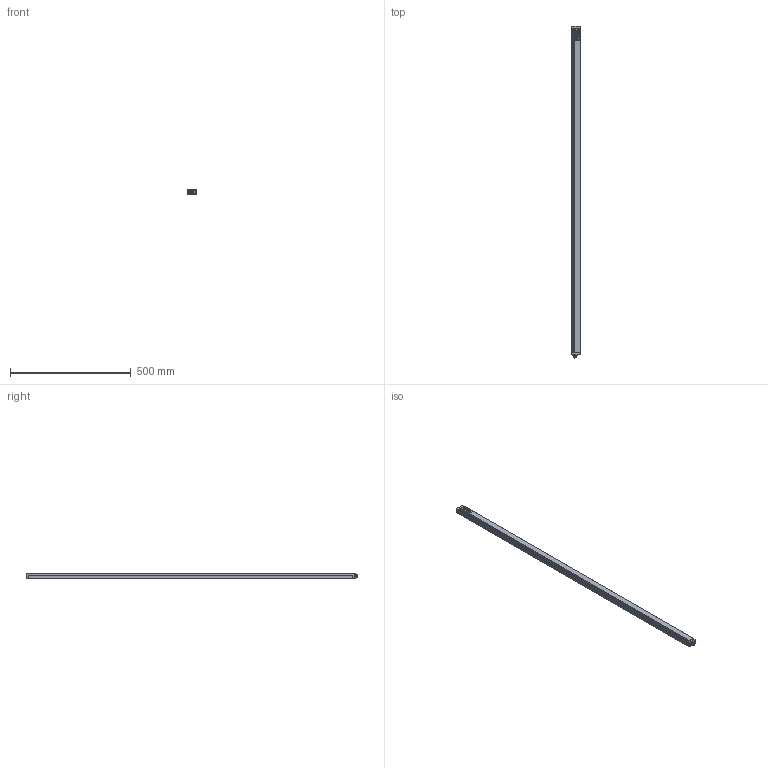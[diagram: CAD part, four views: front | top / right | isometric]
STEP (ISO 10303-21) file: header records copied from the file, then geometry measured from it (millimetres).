
FILE_DESCRIPTION(/* description */ (''),/* implementation_level */ '2;1');
FILE_NAME(/* name */ 'C:\Users\andre\SynologyDrive\Optoscan\Libreria Componenti\00 - Barriere\Polaris sorgente\Polaris_1340_TX.stp',/* time_stamp */ '2021-06-04T11:00:54+02:00',/* author */ ('andre'),/* organization */ (''),/* preprocessor_version */ 'ST-DEVELOPER v18',/* originating_system */ 'Autodesk Inventor 2020',/* authorisation */ '');
FILE_SCHEMA (('AUTOMOTIVE_DESIGN { 1 0 10303 214 3 1 1 }'));
Length unit declared in the file: millimetre
Products named in the file (1): Polaris_1340_TX
Bounding box: 40.5 x 1376.8 x 20.75 mm (x, y, z)
Volume: 271867.8 mm3; surface area: 358380.5 mm2
Topology: 1 solids, 1 shells, 738 faces, 2048 edges, 1320 vertices
Faces by surface type: plane 331, cylinder 207, bspline 115, torus 71, cone 8, sphere 6
Full cylindrical faces by diameter (mm): 1 x8, 2.459 x4, 2.5 x4, 3 x4, 3.5 x4, 5.5 x4, 8 x1, 10.5 x2, 11.75 x9, 12 x1, 12.3 x2, 14.5 x1, 16.7 x1, 17.5 x1
Entity records: 30426 total; most frequent: CARTESIAN_POINT 11243, ORIENTED_EDGE 4082, DIRECTION 3549, EDGE_CURVE 2041, VERTEX_POINT 1321, AXIS2_PLACEMENT_3D 1243, LINE 1063, VECTOR 1063
